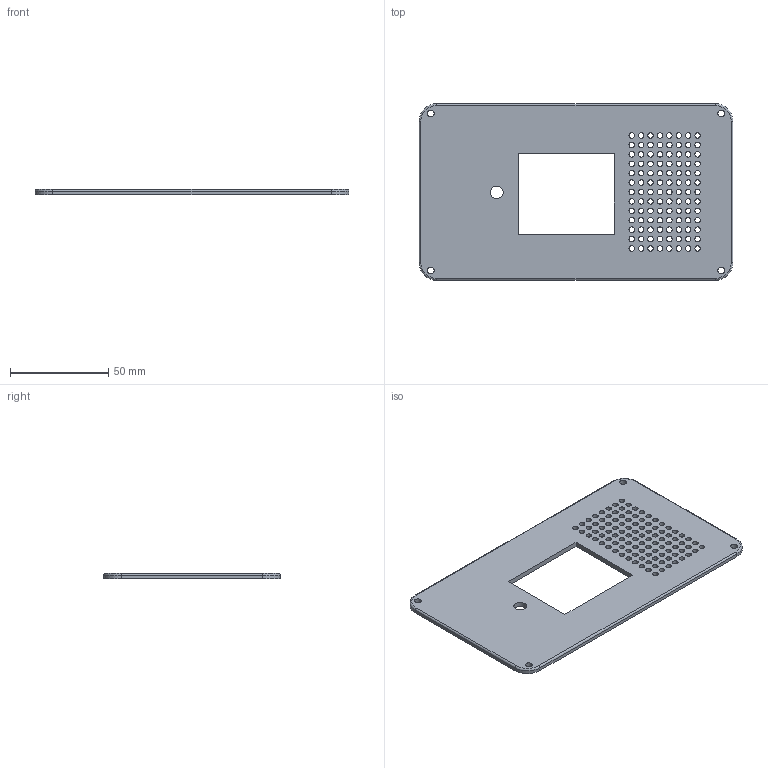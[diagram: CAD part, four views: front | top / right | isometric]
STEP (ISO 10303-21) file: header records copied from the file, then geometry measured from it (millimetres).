
FILE_DESCRIPTION(('Open CASCADE Model'),'2;1');
FILE_NAME('Open CASCADE Shape Model','2026-09-09T23:33:15',('Author'),( 'Open CASCADE'),'Open CASCADE STEP processor 7.9','Open CASCADE 7.9' ,'Unknown');
FILE_SCHEMA(('AUTOMOTIVE_DESIGN { 1 0 10303 214 1 1 1 1 }'));
Length unit declared in the file: millimetre
Products named in the file (1): Open CASCADE STEP translator 7.9 2
Bounding box: 160 x 90 x 2.6 mm (x, y, z)
Volume: 30106.1 mm3; surface area: 27306.2 mm2
Topology: 1 solids, 1 shells, 131 faces, 379 edges, 250 vertices
Faces by surface type: cylinder 117, plane 10, torus 4
Full cylindrical faces by diameter (mm): 2.8 x104, 3.4 x4, 6.5 x1
Entity records: 10125 total; most frequent: CARTESIAN_POINT 2217, DIRECTION 1496, ORIENTED_EDGE 758, PCURVE 758, DEFINITIONAL_REPRESENTATION 758, LINE 641, VECTOR 641, EDGE_CURVE 379
